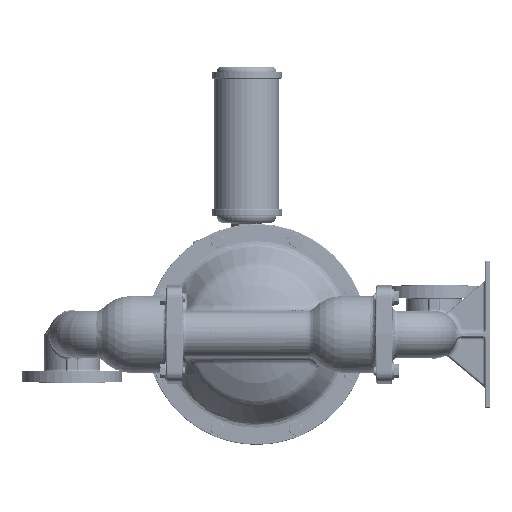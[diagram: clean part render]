
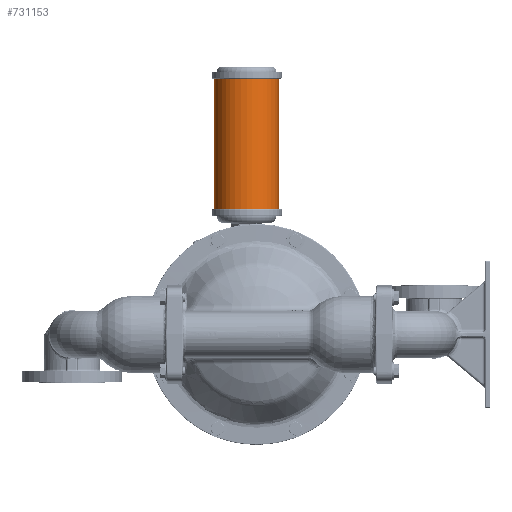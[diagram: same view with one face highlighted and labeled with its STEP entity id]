
A CAD part, left-side view. The second image highlights one B-rep face of the part: STEP entity #731153.
In plain terms, the highlighted cylindrical face has radius 61.722 mm (diameter 123.444 mm), a partial arc.
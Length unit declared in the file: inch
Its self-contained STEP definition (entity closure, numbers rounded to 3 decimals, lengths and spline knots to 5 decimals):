
#168307=DIRECTION('',(0.,0.,1.));
#168308=VECTOR('',#168307,9.78);
#168309=CARTESIAN_POINT('',(0.,3.18,9.392));
#168310=LINE('',#168309,#168308);
#168311=DIRECTION('',(0.,0.,1.));
#168312=VECTOR('',#168311,9.78);
#168313=CARTESIAN_POINT('',(0.,-1.68,9.392));
#168314=LINE('',#168313,#168312);
#168315=CARTESIAN_POINT('',(0.,0.75,9.392));
#168316=DIRECTION('',(0.,0.,1.));
#168317=DIRECTION('',(0.,1.,0.));
#168318=AXIS2_PLACEMENT_3D('',#168315,#168316,#168317);
#168340=CARTESIAN_POINT('',(0.,0.75,19.172));
#168341=DIRECTION('',(0.,0.,1.));
#168342=DIRECTION('',(0.,1.,0.));
#168343=AXIS2_PLACEMENT_3D('',#168340,#168341,#168342);
#585384=CARTESIAN_POINT('',(0.,3.18,9.392));
#585385=CARTESIAN_POINT('',(0.,3.18,19.172));
#585386=VERTEX_POINT('',#585384);
#585387=VERTEX_POINT('',#585385);
#585388=CARTESIAN_POINT('',(0.,-1.68,9.392));
#585389=CARTESIAN_POINT('',(0.,-1.68,19.172));
#585390=VERTEX_POINT('',#585388);
#585391=VERTEX_POINT('',#585389);
#731139=CARTESIAN_POINT('',(0.,0.75,20.6595));
#731140=DIRECTION('',(0.,0.,-1.));
#731141=DIRECTION('',(0.,-1.,0.));
#731142=AXIS2_PLACEMENT_3D('',#731139,#731140,#731141);
#731143=CYLINDRICAL_SURFACE('',#731142,2.43);
#731145=ORIENTED_EDGE('',*,*,#731144,.T.);
#731147=ORIENTED_EDGE('',*,*,#731146,.T.);
#731149=ORIENTED_EDGE('',*,*,#731148,.F.);
#731150=ORIENTED_EDGE('',*,*,#731120,.F.);
#731151=EDGE_LOOP('',(#731145,#731147,#731149,#731150));
#731152=FACE_OUTER_BOUND('',#731151,.F.);
#731153=ADVANCED_FACE('',(#731152),#731143,.T.);
#168319=CIRCLE('',#168318,2.43);
#168344=CIRCLE('',#168343,2.43);
#731120=EDGE_CURVE('',#585386,#585390,#168319,.T.);
#731144=EDGE_CURVE('',#585386,#585387,#168310,.T.);
#731146=EDGE_CURVE('',#585387,#585391,#168344,.T.);
#731148=EDGE_CURVE('',#585390,#585391,#168314,.T.);
